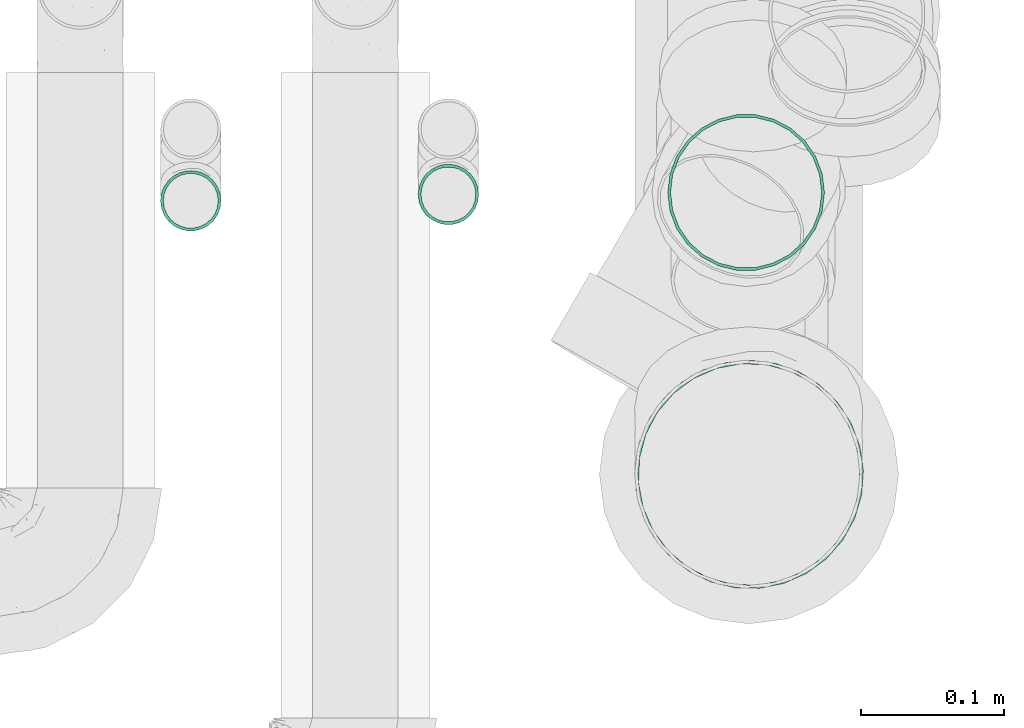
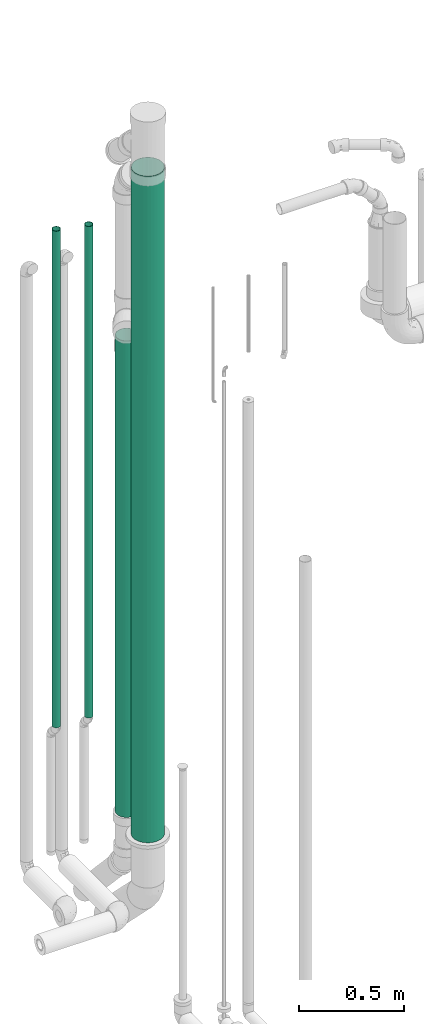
# One storey, part 21 of 78: 4 flow segments.
"""IFC2X3 building model written with IfcOpenShell, lengths in millimetres."""

from ifc_helpers import new_model, entity, si_unit, converted_unit, derived_unit, direction, frame, origin_with_axes, origin_2d_with_axis, place, context, subcontext, project, spatial, hollow_circle, extrude, source, transform, mapped, type_object, element, save


model = new_model("IFC2X3")

# Units and contexts
model_context = context("Model", 3, precision=0.01, world=frame((0.0, 4.29681676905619e-09, 0.0)), true_north=direction((4.01073788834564e-13, 1.0)))
plan_context = context("Plan", 3, precision=0.01, world=frame((0.0, 4.29681676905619e-09, 0.0)), true_north=direction((4.01073788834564e-13, 1.0)))
body_context = subcontext(model_context, "Body", "Model", "MODEL_VIEW")
ifc_project = project(units=[converted_unit("PLANEANGLEUNIT", "DEGREE", entity("IfcPositiveLengthMeasure", 0.0174532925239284), si_unit("PLANEANGLEUNIT", "RADIAN"), dimensions=[0, 0, 0, 0, 0, 0, 0]), si_unit("AREAUNIT", "SQUARE_METRE"), si_unit("LENGTHUNIT", "METRE", prefix="MILLI"), si_unit("MASSUNIT", "GRAM", prefix="KILO"), si_unit("POWERUNIT", "WATT"), si_unit("PRESSUREUNIT", "PASCAL"), si_unit("FORCEUNIT", "NEWTON", prefix="KILO"), si_unit("ELECTRICVOLTAGEUNIT", "VOLT"), si_unit("ELECTRICCURRENTUNIT", "AMPERE"), si_unit("THERMODYNAMICTEMPERATUREUNIT", "DEGREE_CELSIUS"), si_unit("TIMEUNIT", "SECOND"), si_unit("VOLUMEUNIT", "CUBIC_METRE"), derived_unit("LINEARVELOCITYUNIT", [(si_unit("LENGTHUNIT", "METRE"), 1), (si_unit("TIMEUNIT", "SECOND"), -1)]), derived_unit("VOLUMETRICFLOWRATEUNIT", [(si_unit("VOLUMEUNIT", "CUBIC_METRE"), 1), (si_unit("TIMEUNIT", "SECOND"), -1)]), derived_unit("THERMALTRANSMITTANCEUNIT", [(si_unit("POWERUNIT", "WATT"), 1), (si_unit("THERMODYNAMICTEMPERATUREUNIT", "KELVIN"), -1), (si_unit("AREAUNIT", "SQUARE_METRE"), -1)]), derived_unit("SOUNDPRESSUREUNIT", [(si_unit("PRESSUREUNIT", "PASCAL"), 1)])], contexts=[model_context, plan_context])

# Site, building, storey
site_placement = place(None, frame((0.0, -4.29681676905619e-09, 0.0), z_axis=(0.0, 0.0, 1.0), x_axis=(1.0, 0.0, 0.0)))
site = spatial("IfcSite", under=ifc_project, at=site_placement, Name="ENGM", CompositionType="ELEMENT")
building_placement = place(site_placement, frame((0.0, 4.29681676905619e-09, 0.0), z_axis=(0.0, 0.0, 1.0), x_axis=(1.0, 0.0, 0.0)))
building = spatial("IfcBuilding", under=site, at=building_placement, Name="TH", CompositionType="ELEMENT")
storey_placement = place(building_placement, frame((0.0, 0.0, 205200.0), z_axis=(0.0, 0.0, 1.0), x_axis=(1.0, 0.0, 0.0)))
storey = spatial("IfcBuildingStorey", under=building, at=storey_placement, Name="Nivå D + 1,2 m", CompositionType="ELEMENT", Elevation=205200.0)

# Flow segments
pipe_segment_type_1 = type_object("IfcPipeSegmentType", Name="Stålrør normaltykke", PredefinedType="RIGIDSEGMENT")
shared_shape_1 = source(origin_with_axes(), body_context, "Body", "SweptSolid", [
    extrude(hollow_circle(Radius=21.2, WallThickness=2.0, at=origin_2d_with_axis()), frame((0.0, 0.0, 0.0), z_axis=(1.0, 0.0, 0.0), x_axis=(0.0, 1.0, 0.0)), (0.0, 0.0, 1.0), 2883.0),
])
flow_segment_1_placement = place(storey_placement, frame((895447.40675, 480017.46747, 8183.36131000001), z_axis=(0.0, -1.0, 0.0), x_axis=(0.0, 0.0, -1.0)))
element("IfcFlowSegment", 1, at=flow_segment_1_placement, inside=storey, type_object=pipe_segment_type_1, Name="Stålrør normaltykke", context=body_context, shape_type="MappedRepresentation", body=[
    mapped(shared_shape_1, transform((0.0, 0.0, 0.0), scale=1.0)),
])
shared_shape_2 = source(origin_with_axes(), body_context, "Body", "SweptSolid", [
    extrude(hollow_circle(Radius=21.2, WallThickness=2.0, at=origin_2d_with_axis()), frame((0.0, 0.0, 0.0), z_axis=(1.0, 0.0, 0.0), x_axis=(0.0, 1.0, 0.0)), (0.0, 0.0, 1.0), 2853.7),
])
flow_segment_2_placement = place(storey_placement, frame((895628.1602, 480021.92131, 8144.60000000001), z_axis=(0.0, 1.0, 0.0), x_axis=(0.0, 0.0, -1.0)))
element("IfcFlowSegment", 2, at=flow_segment_2_placement, inside=storey, type_object=pipe_segment_type_1, Name="Stålrør normaltykke", context=body_context, shape_type="MappedRepresentation", body=[
    mapped(shared_shape_2, transform((0.0, 0.0, 0.0), scale=1.0)),
])
pipe_segment_type_2 = type_object("IfcPipeSegmentType", Name="MA", PredefinedType="RIGIDSEGMENT")
shared_shape_3 = source(origin_with_axes(), body_context, "Body", "SweptSolid", [
    extrude(hollow_circle(Radius=55.0, WallThickness=2.0, at=origin_2d_with_axis()), frame((0.0, 0.0, 0.0), z_axis=(1.0, 0.0, 0.0), x_axis=(0.0, 1.0, 0.0)), (0.0, 0.0, 1.0), 2764.8),
])
flow_segment_3_placement = place(storey_placement, frame((895837.03993, 480023.27263, 4664.12138999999), z_axis=(0.0, 1.0, 0.0), x_axis=(0.0, 0.0, 1.0)))
element("IfcFlowSegment", 3, at=flow_segment_3_placement, inside=storey, type_object=pipe_segment_type_2, Name="MA", context=body_context, shape_type="MappedRepresentation", body=[
    mapped(shared_shape_3, transform((0.0, 0.0, 0.0), scale=1.0)),
])
pipe_segment_type_3 = type_object("IfcPipeSegmentType", Name="SSt", PredefinedType="RIGIDSEGMENT")
shared_shape_4 = source(origin_with_axes(), body_context, "Body", "SweptSolid", [
    extrude(hollow_circle(Radius=80.0, WallThickness=2.0, at=origin_2d_with_axis()), frame((0.0, 0.0, 0.0), z_axis=(1.0, 0.0, 0.0), x_axis=(0.0, 1.0, 0.0)), (0.0, 0.0, 1.0), 3869.2),
])
flow_segment_4_placement = place(storey_placement, frame((895839.4078, 479825.2648, 8522.41477), z_axis=(-0.866025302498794, -0.500000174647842, 2.80000097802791e-05), x_axis=(-8.130481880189e-05, 8.482401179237e-05, -0.999999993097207)))
element("IfcFlowSegment", 4, at=flow_segment_4_placement, inside=storey, type_object=pipe_segment_type_3, Name="SSt", context=body_context, shape_type="MappedRepresentation", body=[
    mapped(shared_shape_4, transform((0.0, 0.0, 0.0), scale=1.0)),
])

save(model, "model.ifc")
